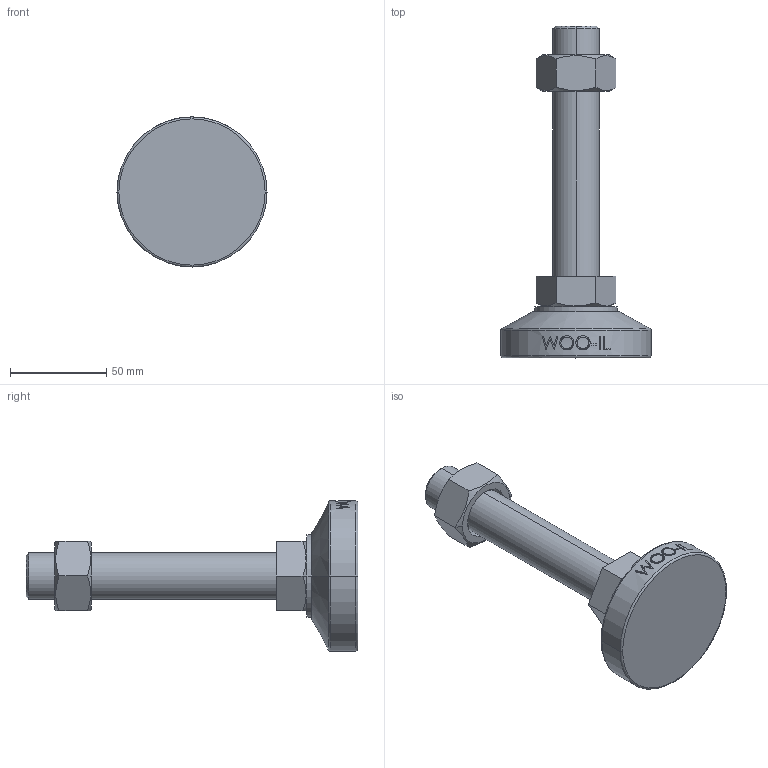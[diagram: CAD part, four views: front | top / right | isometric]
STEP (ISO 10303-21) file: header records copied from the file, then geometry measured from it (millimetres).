
FILE_DESCRIPTION (( 'STEP AP214' ), '1' );
FILE_NAME ('MFB78-M24-130.step', '2022-06-27T08:35:31', ( '' ), ( '' ), 'SwSTEP 2.0', 'SolidWorks 2019', '' );
FILE_SCHEMA (( 'AUTOMOTIVE_DESIGN' ));
Length unit declared in the file: millimetre
Products named in the file (1): MFB78-M24-130
Bounding box: 78 x 172.5 x 78 mm (x, y, z)
Volume: 191514 mm3; surface area: 32626.9 mm2
Topology: 3 solids, 3 shells, 97 faces, 225 edges, 144 vertices
Faces by surface type: plane 47, cylinder 16, bspline 16, cone 14, torus 4
Entity records: 4305 total; most frequent: CARTESIAN_POINT 2175, ORIENTED_EDGE 450, DIRECTION 385, EDGE_CURVE 225, AXIS2_PLACEMENT_3D 144, VERTEX_POINT 144, EDGE_LOOP 109, LINE 97
